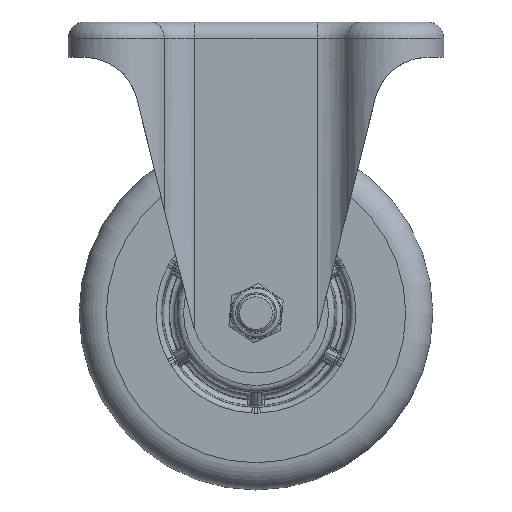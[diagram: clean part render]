
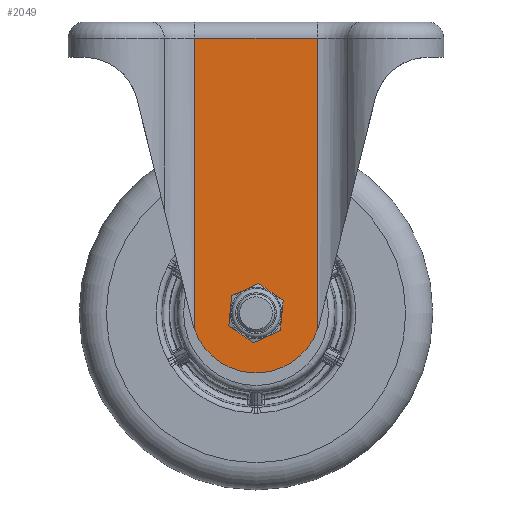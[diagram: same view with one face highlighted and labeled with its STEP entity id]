
A CAD part, front view. The second image highlights one B-rep face of the part: STEP entity #2049.
In plain terms, the highlighted planar face has unit normal (0, -1, 0).
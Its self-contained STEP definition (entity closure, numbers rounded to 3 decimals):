
#2049=ADVANCED_FACE('',(#3140,#3141),#2846,.F.);
#2846=PLANE('',#12727);
#3140=FACE_BOUND('',#3292,.T.);
#3141=FACE_BOUND('',#3293,.T.);
#3292=EDGE_LOOP('',(#4995,#4996,#4997,#4998,#4999,#5000));
#3293=EDGE_LOOP('',(#5001,#5002,#5003,#5004));
#4196=CIRCLE('',#12720,9.5);
#4197=CIRCLE('',#12721,9.5);
#4198=CIRCLE('',#12722,9.5);
#4199=CIRCLE('',#12723,9.5);
#4200=CIRCLE('',#12724,9.5);
#4201=CIRCLE('',#12725,9.5);
#4202=CIRCLE('',#12726,24.);
#4995=ORIENTED_EDGE('',*,*,#9987,.F.);
#4996=ORIENTED_EDGE('',*,*,#9988,.F.);
#4997=ORIENTED_EDGE('',*,*,#9989,.F.);
#4998=ORIENTED_EDGE('',*,*,#9990,.F.);
#4999=ORIENTED_EDGE('',*,*,#9991,.T.);
#5000=ORIENTED_EDGE('',*,*,#9992,.F.);
#5001=ORIENTED_EDGE('',*,*,#9993,.T.);
#5002=ORIENTED_EDGE('',*,*,#9994,.F.);
#5003=ORIENTED_EDGE('',*,*,#9995,.T.);
#5004=ORIENTED_EDGE('',*,*,#9996,.T.);
#8805=VERTEX_POINT('',#17594);
#8806=VERTEX_POINT('',#17595);
#8807=VERTEX_POINT('',#17597);
#8808=VERTEX_POINT('',#17599);
#8809=VERTEX_POINT('',#17601);
#8810=VERTEX_POINT('',#17603);
#8811=VERTEX_POINT('',#17606);
#8812=VERTEX_POINT('',#17607);
#8813=VERTEX_POINT('',#17609);
#8814=VERTEX_POINT('',#17611);
#9987=EDGE_CURVE('',#8805,#8806,#4196,.T.);
#9988=EDGE_CURVE('',#8807,#8805,#4197,.T.);
#9989=EDGE_CURVE('',#8808,#8807,#4198,.T.);
#9990=EDGE_CURVE('',#8809,#8808,#4199,.T.);
#9991=EDGE_CURVE('',#8809,#8810,#4200,.T.);
#9992=EDGE_CURVE('',#8806,#8810,#4201,.T.);
#9993=EDGE_CURVE('',#8811,#8812,#11750,.T.);
#9994=EDGE_CURVE('',#8813,#8812,#4202,.T.);
#9995=EDGE_CURVE('',#8813,#8814,#11751,.T.);
#9996=EDGE_CURVE('',#8814,#8811,#11752,.T.);
#11750=LINE('',#17605,#12229);
#11751=LINE('',#17610,#12230);
#11752=LINE('',#17612,#12231);
#12229=VECTOR('',#14064,1.);
#12230=VECTOR('',#14067,1.);
#12231=VECTOR('',#14068,1.);
#12720=AXIS2_PLACEMENT_3D('',#17593,#14052,#14053);
#12721=AXIS2_PLACEMENT_3D('',#17596,#14054,#14055);
#12722=AXIS2_PLACEMENT_3D('',#17598,#14056,#14057);
#12723=AXIS2_PLACEMENT_3D('',#17600,#14058,#14059);
#12724=AXIS2_PLACEMENT_3D('',#17602,#14060,#14061);
#12725=AXIS2_PLACEMENT_3D('',#17604,#14062,#14063);
#12726=AXIS2_PLACEMENT_3D('',#17608,#14065,#14066);
#12727=AXIS2_PLACEMENT_3D('',#17613,#14069,#14070);
#14052=DIRECTION('',(0.,-1.,0.));
#14053=DIRECTION('',(-0.577,0.,-0.817));
#14054=DIRECTION('',(0.,-1.,0.));
#14055=DIRECTION('',(-0.577,0.,-0.817));
#14056=DIRECTION('',(0.,-1.,0.));
#14057=DIRECTION('',(-0.577,0.,-0.817));
#14058=DIRECTION('',(0.,-1.,0.));
#14059=DIRECTION('',(-0.577,0.,-0.817));
#14060=DIRECTION('',(0.,1.,0.));
#14061=DIRECTION('',(0.577,0.,0.817));
#14062=DIRECTION('',(0.,-1.,0.));
#14063=DIRECTION('',(-0.577,0.,-0.817));
#14064=DIRECTION('',(0.,0.,-1.));
#14065=DIRECTION('',(0.,1.,0.));
#14066=DIRECTION('',(0.,0.,1.));
#14067=DIRECTION('',(0.,0.,1.));
#14068=DIRECTION('',(-1.,0.,0.));
#14069=DIRECTION('',(0.,1.,0.));
#14070=DIRECTION('',(0.,0.,1.));
#17593=CARTESIAN_POINT('',(0.,-29.5,-107.));
#17594=CARTESIAN_POINT('',(-5.485,-29.5,-114.757));
#17595=CARTESIAN_POINT('',(3.975,-29.5,-115.628));
#17596=CARTESIAN_POINT('',(0.,-29.5,-107.));
#17597=CARTESIAN_POINT('',(-9.46,-29.5,-106.129));
#17598=CARTESIAN_POINT('',(0.,-29.5,-107.));
#17599=CARTESIAN_POINT('',(-3.975,-29.5,-98.372));
#17600=CARTESIAN_POINT('',(0.,-29.5,-107.));
#17601=CARTESIAN_POINT('',(5.485,-29.5,-99.243));
#17602=CARTESIAN_POINT('',(0.,-29.5,-107.));
#17603=CARTESIAN_POINT('',(9.46,-29.5,-107.871));
#17604=CARTESIAN_POINT('',(0.,-29.5,-107.));
#17605=CARTESIAN_POINT('',(-22.582,-29.5,-78.45));
#17606=CARTESIAN_POINT('',(-22.582,-29.5,-6.));
#17607=CARTESIAN_POINT('',(-22.582,-29.5,-113.127));
#17608=CARTESIAN_POINT('',(0.,-29.5,-105.));
#17609=CARTESIAN_POINT('',(22.582,-29.5,-113.127));
#17610=CARTESIAN_POINT('',(22.582,-29.5,0.));
#17611=CARTESIAN_POINT('',(22.582,-29.5,-6.));
#17612=CARTESIAN_POINT('',(-22.582,-29.5,-6.));
#17613=CARTESIAN_POINT('',(25.49,-29.5,0.));
